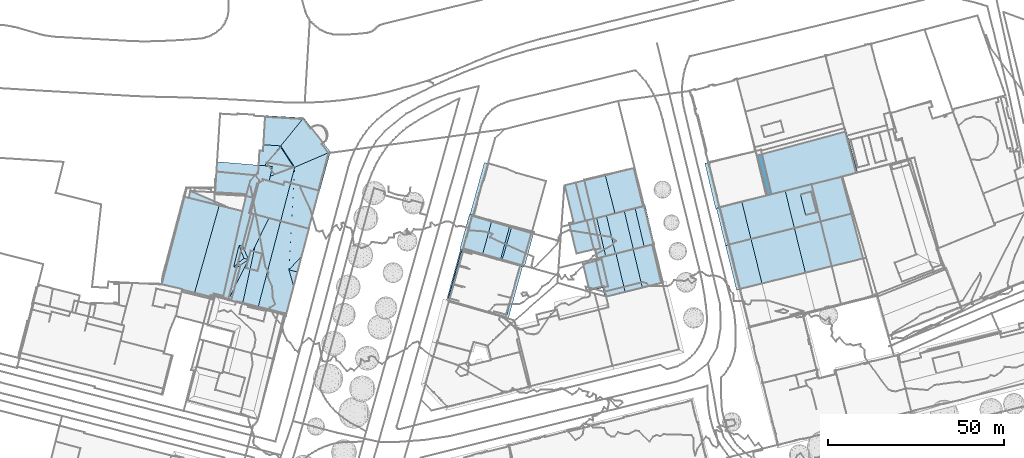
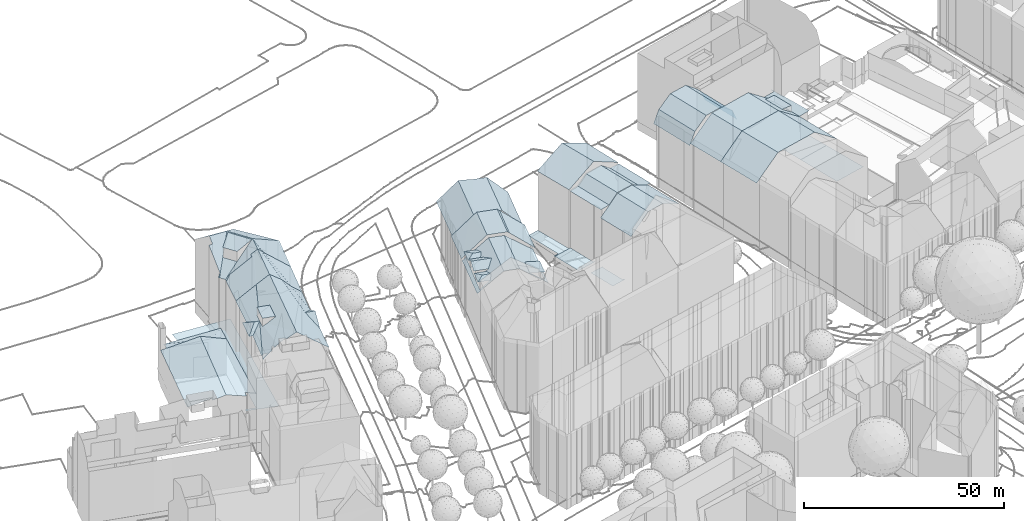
# Not in any storey, part 87 of 477: 23 roofs.
"""IFC4 building model written with IfcOpenShell, lengths in metres."""

from ifc_helpers import new_model, si_unit, frame, origin_with_axes, place, context, subcontext, project, spatial, polygons, element, save


model = new_model("IFC4")

# Units and contexts
model_context = context("Model", 3, precision=1e-05, world=origin_with_axes())
body_context = subcontext(model_context, "Body", "Model", "MODEL_VIEW")
ifc_project = project(units=[si_unit("AREAUNIT", "SQUARE_METRE"), si_unit("LENGTHUNIT", "METRE")], contexts=[model_context])

# Sites, building
site_1_placement = place(None, origin_with_axes())
site_1 = spatial("IfcSite", under=ifc_project, at=site_1_placement, Name="Topoexport Site")
site_2_placement = place(site_1_placement, origin_with_axes())
site_2 = spatial("IfcSite", under=site_1, at=site_2_placement, Name="TPX_BUILDINGS")
building_1_placement = place(site_2_placement, frame((64.667732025, 395.1844160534, 537.6027), z_axis=(0.0, 0.0, 1.0), x_axis=(1.0, 0.0, 0.0)))
building_1 = spatial("IfcBuilding", under=site_2, at=building_1_placement, Name="Building 211", CompositionType="ELEMENT")

# Roof
roof_1_placement = place(None, frame((64.667732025, 395.1844160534, 537.6027), z_axis=(0.0, 0.0, 1.0), x_axis=(1.0, 0.0, 0.0)))
element("IfcRoof", 1, at=roof_1_placement, inside=building_1, Name="Roof 0", context=body_context, shape_type="Tessellation", body=[
    polygons([(4.5400000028, 3.8125, 21.8939), (1.5460000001, 7.3270999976, 23.1738), (6.688000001, 5.9159999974, 23.1738), (1.3420000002, 4.691399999, 21.8939), (0.8580000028, 4.8242000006, 21.8939), (2.7980000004, 9.7821999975, 21.8939), (2.2609999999, 9.9305999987, 21.8939), (5.943, 8.9188999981, 21.8939), (2.8380000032, -0.0956999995, 21.381), (4.0340000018, 1.5419999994, 21.9909), (5.7960000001, -1.683600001, 24.1487), (0.0, 0.0, 19.0482), (4.3110000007, 3.875, 21.6939), (3.9030000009, 3.7802999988, 21.381), (3.6730000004, 3.8436999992, 21.181), (2.7980000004, 9.7821999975, 19.1392), (5.1950000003, 9.3856999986, 21.181), (5.7140000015, 8.9824000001, 21.6939), (9.7730000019, 12.7919999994, 24.1487), (-0.7639999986, 0.2225999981, 18.3763), (0.1810000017, 0.6338, 19.0542), (2.6080000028, -0.0322000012, 21.181), (1.2870000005, 4.498999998, 19.0902), (1.3420000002, 4.691399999, 19.0922), (3.1740000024, 14.557599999, 18.3763), (6.6330000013, 11.003899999, 21.9909), (5.4240000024, 9.3222000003, 21.381), (9.3950000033, 12.8935000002, 23.8177), (6.4830000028, 13.1719000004, 21.382), (4.0940000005, 14.311499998, 19.1812), (2.8680000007, 10.0253999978, 19.1412), (3.9660000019, 13.8641999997, 19.1772), (6.2540000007, 13.2353000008, 21.182), (13.6960000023, 11.6972000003, 24.1487), (9.7090000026, -2.8203000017, 24.1487), (17.5660000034, 0.7548999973, 21.5799), (17.6160000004, 0.7421999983, 21.5729), (16.393000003, -4.0234999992, 21.5729), (13.8360000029, 1.7118999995, 22.0739), (16.1920000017, -3.9717000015, 21.5999), (12.5160000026, -3.0283000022, 22.0869), (1.8880000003, 2.1327999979, 21.9909), (1.1180000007, 3.9091999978, 21.557), (0.8050000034, 4.6307999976, 21.381), (1.2870000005, 4.498999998, 21.381), (0.3230000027, 1.1279000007, 21.546), (-0.2599999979, 0.753899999, 21.381), (0.1810000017, 0.6338, 21.381), (3.7740000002, 13.1923999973, 21.589), (4.5260000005, 11.5819999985, 21.9909), (3.3850000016, 14.0243999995, 21.381), (3.9660000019, 13.8641999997, 21.381), (2.3280000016, 10.1747999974, 21.381), (2.8680000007, 10.0253999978, 21.381), (14.1510000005, 1.6307999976, 21.8319), (14.9600000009, 11.3524999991, 23.1708), (14.7220000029, 1.4853000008, 21.393), (20.200000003, 9.8876999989, 19.1072), (20.8680000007, 9.7001999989, 18.5892), (17.5660000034, 0.7548999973, 19.2002), (16.9110000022, 0.9228000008, 19.7051), (14.5840000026, -4.2382999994, 20.361), (14.6000000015, -3.563500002, 20.483), (12.8310000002, -3.1094000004, 21.8449), (16.1920000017, -3.9717000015, 19.2552), (16.8610000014, -4.8993999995, 18.5891)], [[[3, 2, 1]], [[1, 2, 4]], [[4, 2, 5]], [[7, 2, 6]], [[2, 8, 6]], [[8, 2, 3]], [[11, 10, 9]], [[10, 11, 3]], [[11, 9, 12]], [[3, 1, 10]], [[15, 14, 13]], [[14, 10, 13]], [[18, 17, 16]], [[13, 10, 1]], [[11, 19, 3]], [[12, 21, 20]], [[21, 12, 22]], [[20, 21, 23]], [[23, 24, 20]], [[24, 23, 15]], [[15, 13, 24]], [[12, 9, 22]], [[20, 24, 25]], [[27, 18, 26]], [[26, 18, 8]], [[18, 27, 17]], [[26, 8, 3]], [[29, 26, 28]], [[28, 30, 29]], [[3, 28, 26]], [[3, 19, 28]], [[16, 17, 31]], [[16, 31, 25]], [[33, 30, 32]], [[30, 33, 29]], [[32, 25, 31]], [[25, 32, 30]], [[16, 25, 24]], [[11, 35, 34]], [[34, 19, 11]], [[38, 37, 36]], [[40, 36, 39]], [[40, 38, 36]], [[41, 40, 39]], [[10, 14, 42]], [[42, 14, 43]], [[45, 44, 43]], [[45, 43, 14]], [[43, 44, 46]], [[46, 42, 43]], [[47, 46, 44]], [[47, 48, 46]], [[46, 48, 9]], [[42, 9, 10]], [[9, 42, 46]], [[50, 26, 49]], [[49, 26, 29]], [[52, 51, 49]], [[52, 49, 29]], [[49, 51, 53]], [[53, 50, 49]], [[53, 54, 27]], [[50, 27, 26]], [[27, 50, 53]], [[56, 39, 55]], [[39, 56, 34]], [[56, 55, 57]], [[34, 35, 39]], [[60, 59, 58]], [[58, 56, 61]], [[61, 60, 58]], [[56, 57, 61]], [[41, 35, 62]], [[64, 62, 63]], [[62, 64, 41]], [[63, 62, 65]], [[65, 66, 60]], [[65, 62, 66]], [[60, 66, 59]], [[41, 39, 35]]]),
])

# Building
building_2_placement = place(site_2_placement, frame((102.7887320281, 405.5477160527, 537.9757), z_axis=(0.0, 0.0, 1.0), x_axis=(1.0, 0.0, 0.0)))
building_2 = spatial("IfcBuilding", under=site_2, at=building_2_placement, Name="Building 213", CompositionType="ELEMENT")

# Roofs
roof_2_placement = place(None, frame((102.7887320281, 405.5477160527, 537.9757), z_axis=(0.0, 0.0, 1.0), x_axis=(1.0, 0.0, 0.0)))
element("IfcRoof", 2, at=roof_2_placement, inside=building_2, Name="Roof 0", context=body_context, shape_type="Tessellation", body=[
    polygons([(5.4069999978, -6.3467000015, 4.4825), (5.8159999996, -6.2481000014, 4.4825), (5.9039999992, -6.5967000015, 4.4825), (-0.0450000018, 0.191399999, 4.4825), (1.7969999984, -7.5713, 4.4825), (3.6710000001, 0.9648000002, 4.4825), (3.9609999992, 1.1415999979, 4.4825), (3.9849999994, 1.0478000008, 4.4825)], [[[3, 2, 1]], [[5, 1, 4]], [[1, 5, 3]], [[8, 7, 6]], [[4, 1, 6]], [[4, 6, 7]]]),
])
roof_3_placement = place(None, frame((102.7887320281, 405.5477160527, 537.9757), z_axis=(0.0, 0.0, 1.0), x_axis=(1.0, 0.0, 0.0)))
element("IfcRoof", 3, at=roof_3_placement, inside=building_2, Name="Roof 1", context=body_context, shape_type="Tessellation", body=[
    polygons([(11.8929999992, -7.8984999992, 23.9257), (14.2089999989, 4.2109000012, 23.9257), (16.7939999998, -6.6768000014, 23.9256), (9.3090000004, 2.9882000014, 23.9257), (6.1169999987, -9.3370000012, 19.2121), (5.4069999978, -6.3467000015, 19.2121), (10.0149999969, -8.3663000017, 22.3928), (4.0819999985, 1.682599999, 19.6591), (6.3880000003, 2.2586999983, 21.5419), (3.6710000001, 0.9657999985, 19.2121), (3.5329999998, 1.5487999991, 19.2121), (3.8389999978, 1.6220000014, 19.4611), (22.2419999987, -5.3194000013, 21.2059), (19.6569999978, 5.5711999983, 21.2059)], [[[3, 2, 1]], [[2, 4, 1]], [[7, 6, 5]], [[7, 1, 4]], [[6, 9, 8]], [[6, 7, 9]], [[9, 7, 4]], [[6, 8, 10]], [[12, 11, 10]], [[8, 12, 10]], [[3, 13, 2]], [[14, 2, 13]]]),
])

# Building
building_3_placement = place(site_2_placement, frame((98.9137320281, 416.7703160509, 537.9817), z_axis=(0.0, 0.0, 1.0), x_axis=(1.0, 0.0, 0.0)))
building_3 = spatial("IfcBuilding", under=site_2, at=building_3_placement, Name="Building 215", CompositionType="ELEMENT")

# Roofs
roof_4_placement = place(None, frame((98.9137320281, 416.7703160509, 537.9817), z_axis=(0.0, 0.0, 1.0), x_axis=(1.0, 0.0, 0.0)))
element("IfcRoof", 4, at=roof_4_placement, inside=building_3, Name="Roof 0", context=body_context, shape_type="Tessellation", body=[
    polygons([(1.7390000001, -8.441399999, 4.2915), (6.9159999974, -6.990199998, 4.2915), (7.3609999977, -7.1074000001, 4.2915), (7.3090000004, -6.8954999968, 4.2915), (0.0, 0.0, 4.2916), (4.9659999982, 1.2246000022, 4.2916), (-0.2490000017, -0.0682999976, 4.2916)], [[[3, 2, 1]], [[2, 3, 4]], [[1, 2, 5]], [[6, 5, 2]], [[7, 1, 5]]]),
])
roof_5_placement = place(None, frame((98.9137320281, 416.7703160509, 537.9817), z_axis=(0.0, 0.0, 1.0), x_axis=(1.0, 0.0, 0.0)))
element("IfcRoof", 5, at=roof_5_placement, inside=building_3, Name="Roof 1", context=body_context, shape_type="Tessellation", body=[
    polygons([(13.0639999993, -8.3505999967, 24.1426), (10.3779999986, 2.9638999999, 24.1427), (18.1549999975, -7.1415999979, 24.1426), (15.4699999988, 4.1729000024, 24.1427), (15.5339999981, 3.9024000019, 24.1427), (10.2699999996, -9.0136999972, 21.7419), (7.5849999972, 2.3008000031, 21.7419), (18.5539999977, 4.9043000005, 21.7419), (18.6039999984, 4.692400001, 21.7419), (21.2399999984, -6.4091999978, 21.7419), (20.9829999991, -6.4706999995, 21.7419), (10.5029999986, -8.9589999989, 21.7419), (10.4899999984, -8.9042999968, 21.7419), (20.9419999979, -6.297799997, 21.7419), (7.549999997, -9.6591999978, 21.6039), (6.9159999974, -6.990199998, 21.6039), (4.9659999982, 1.2246000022, 21.6039), (4.8640000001, 1.6543000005, 21.6039), (21.1049999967, 5.5108000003, 21.6209), (24.1529999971, -5.7186999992, 21.6039), (21.1659999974, 5.5244000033, 21.6179), (21.4670000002, 5.5957000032, 21.6039), (7.818, 2.3555000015, 21.7419), (10.0669999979, 2.4883000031, 21.7419), (7.9129999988, 1.9541000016, 21.7419), (14.2060000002, 3.5654000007, 21.7419), (18.2969999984, 4.8438000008, 21.7419), (18.3479999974, 4.626000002, 21.7419), (21.1049999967, 5.5108000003, 21.4209), (21.1659999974, 5.5244000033, 21.4179), (20.7390000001, 5.4238000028, 21.4569)], [[[3, 2, 1]], [[5, 4, 2]], [[5, 2, 3]], [[1, 7, 6]], [[2, 7, 1]], [[4, 5, 8]], [[9, 8, 5]], [[5, 10, 9]], [[3, 10, 5]], [[13, 12, 11]], [[11, 14, 13]], [[16, 15, 6]], [[6, 7, 16]], [[18, 17, 7]], [[7, 17, 16]], [[19, 9, 10]], [[10, 20, 19]], [[19, 20, 21]], [[8, 9, 19]], [[21, 20, 22]], [[25, 24, 23]], [[23, 24, 26]], [[26, 28, 27]], [[26, 27, 23]], [[31, 30, 29]]]),
])

# Building
building_4_placement = place(site_2_placement, frame((97.5747320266, 427.9617160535, 537.9817), z_axis=(0.0, 0.0, 1.0), x_axis=(1.0, 0.0, 0.0)))
building_4 = spatial("IfcBuilding", under=site_2, at=building_4_placement, Name="Building 216", CompositionType="ELEMENT")

# Roofs
roof_6_placement = place(None, frame((97.5747320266, 427.9617160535, 537.9817), z_axis=(0.0, 0.0, 1.0), x_axis=(1.0, 0.0, 0.0)))
element("IfcRoof", 6, at=roof_6_placement, inside=building_4, Name="Roof 0", context=body_context, shape_type="Tessellation", body=[
    polygons([(14.2390000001, -7.9658000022, 26.7444), (11.4050000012, -8.6982000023, 25.2266), (11.4310000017, 3.0196000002, 26.7444), (5.5520000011, 1.5956999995, 23.5977), (4.5610000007, 1.3564999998, 23.0668), (19.5830000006, -6.5918000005, 23.8397), (3.1070000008, 0.7763999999, 22.2619), (10.313000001, -8.9736000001, 24.6426), (5.8550000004, -10.076100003, 22.2618), (5.8660000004, -10.1181000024, 22.2618), (3.0529999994, 0.9902999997, 22.2619), (19.6849999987, 4.9169999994, 22.5608), (19.6860000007, 5.0449000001, 22.5468), (19.7170000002, 4.9247999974, 22.5438), (19.7930000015, 4.6279999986, 22.5358), (22.4250000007, -5.6084000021, 22.2678), (22.4860000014, -5.8447000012, 22.2618), (5.1620000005, -7.3408000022, 22.1119), (5.8660000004, -10.1181000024, 22.0619), (5.8550000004, -10.076100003, 22.0619)], [[[3, 2, 1]], [[4, 2, 3]], [[2, 4, 5]], [[6, 3, 1]], [[9, 8, 7]], [[9, 10, 8]], [[8, 2, 5]], [[11, 7, 5]], [[5, 7, 8]], [[13, 3, 12]], [[6, 12, 3]], [[13, 12, 14]], [[14, 12, 15]], [[15, 6, 16]], [[6, 15, 12]], [[17, 16, 6]], [[20, 19, 18]]]),
])
roof_7_placement = place(None, frame((97.5747320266, 427.9617160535, 537.9817), z_axis=(0.0, 0.0, 1.0), x_axis=(1.0, 0.0, 0.0)))
element("IfcRoof", 7, at=roof_7_placement, inside=building_4, Name="Roof 1", context=body_context, shape_type="Tessellation", body=[
    polygons([(1.0899999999, -11.2597000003, 4.2916), (2.3269999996, -10.6279000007, 4.2916), (5.8550000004, -10.0771000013, 4.2916), (1.0139999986, -10.9394000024, 4.2916), (-0.1319999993, -0.2724000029, 4.2916), (-0.1149999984, -0.0293000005, 4.2916), (3.1070000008, 0.7763999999, 4.2916)], [[[3, 2, 1]], [[1, 2, 4]], [[7, 6, 5]], [[7, 5, 2]], [[7, 2, 3]]]),
])

# Building
building_5_placement = place(site_2_placement, frame((71.5077320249, 419.4158160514, 538.2757), z_axis=(0.0, 0.0, 1.0), x_axis=(1.0, 0.0, 0.0)))
building_5 = spatial("IfcBuilding", under=site_2, at=building_5_placement, Name="Building 218", CompositionType="ELEMENT")

# Roof
roof_8_placement = place(None, frame((71.5077320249, 419.4158160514, 538.2757), z_axis=(0.0, 0.0, 1.0), x_axis=(1.0, 0.0, 0.0)))
element("IfcRoof", 8, at=roof_8_placement, inside=building_5, Name="Roof 0", context=body_context, shape_type="Tessellation", body=[
    polygons([(5.2630000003, -1.4716999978, 23.8407), (12.2180000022, 12.0987000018, 23.8407), (15.4800000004, 11.1905000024, 23.8407), (11.5430000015, -3.1571999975, 23.8407), (10.3780000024, -2.8768999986, 23.8407), (10.9740000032, -3.0537, 23.8627), (14.3450000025, -3.9266999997, 20.903), (20.7310000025, 9.7285000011, 18.3702), (16.7580000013, -4.5887999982, 18.3702), (-0.935999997, 0.2675999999, 18.4312), (3.1540000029, 15.1231000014, 18.4102), (3.2370000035, 10.6689999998, 19.6191), (3.4560000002, -0.990199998, 22.7848), (0.0, 0.0, 19.3591), (8.5650000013, 13.5342000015, 23.8377), (4.2300000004, 14.7851999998, 19.4951), (4.2420000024, 14.8280999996, 19.4951), (4.4660000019, -1.253899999, 23.7797), (8.5710000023, 13.5322999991, 23.8377), (9.0720000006, 13.3877000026, 23.8377), (9.4630000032, 13.2743999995, 23.8387)], [[[3, 2, 1]], [[3, 5, 4]], [[5, 3, 1]], [[6, 4, 5]], [[7, 3, 4]], [[3, 7, 8]], [[9, 8, 7]], [[12, 11, 10]], [[14, 13, 12]], [[10, 14, 12]], [[15, 12, 13]], [[12, 15, 16]], [[11, 16, 17]], [[16, 11, 12]], [[13, 18, 15]], [[18, 1, 15]], [[15, 1, 19]], [[1, 20, 19]], [[1, 21, 20]], [[21, 1, 2]]]),
])

# Building
building_6_placement = place(site_2_placement, frame((68.6347320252, 410.0320160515, 538.0377), z_axis=(0.0, 0.0, 1.0), x_axis=(1.0, 0.0, 0.0)))
building_6 = spatial("IfcBuilding", under=site_2, at=building_6_placement, Name="Building 219", CompositionType="ELEMENT")

# Roofs
roof_9_placement = place(None, frame((68.6347320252, 410.0320160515, 538.0377), z_axis=(0.0, 0.0, 1.0), x_axis=(1.0, 0.0, 0.0)))
element("IfcRoof", 9, at=roof_9_placement, inside=building_6, Name="Roof 0", context=body_context, shape_type="Tessellation", body=[
    polygons([(14.4160000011, 6.2266000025, 23.6277), (10.9930000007, -3.495099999, 24.2517), (13.8470000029, 6.3300999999, 24.1007), (16.2340000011, -4.9580000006, 19.5911), (17.2180000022, 5.4571000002, 21.141), (20.0100000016, 4.1856000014, 18.5462), (17.4090000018, -5.2861000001, 18.5462), (20.1390000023, 4.6543000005, 18.5462)], [[[3, 2, 1]], [[5, 2, 4]], [[4, 7, 6]], [[6, 8, 5]], [[1, 2, 5]], [[5, 4, 6]]]),
])
roof_10_placement = place(None, frame((68.6347320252, 410.0320160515, 538.0377), z_axis=(0.0, 0.0, 1.0), x_axis=(1.0, 0.0, 0.0)))
element("IfcRoof", 10, at=roof_10_placement, inside=building_6, Name="Roof 1", context=body_context, shape_type="Tessellation", body=[
    polygons([(0.2920000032, 1.0322999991, 19.3851), (5.4290000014, -1.9501999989, 24.6556), (0.1270000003, -0.5350999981, 19.6071), (-0.7929999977, -0.2899999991, 18.7312), (6.3289999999, 8.3936000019, 23.0228), (1.9370000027, 9.6513999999, 18.6692), (2.8729999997, 9.3838, 19.5971), (-0.9859999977, -0.2362999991, 18.5462), (1.7430000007, 9.7050999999, 18.5462), (8.1359999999, 7.9121000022, 24.6556), (7.3390000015, 8.129900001, 24.0177), (13.251000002, 6.5069000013, 24.6556), (10.5390000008, -3.375, 24.6556), (13.8470000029, 6.3300999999, 24.1007), (10.9930000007, -3.495099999, 24.2517)], [[[3, 2, 1]], [[1, 4, 3]], [[5, 1, 2]], [[7, 6, 1]], [[7, 1, 5]], [[1, 6, 4]], [[6, 8, 4]], [[8, 6, 9]], [[11, 2, 10]], [[5, 2, 11]], [[2, 13, 12]], [[12, 10, 2]], [[12, 15, 14]], [[15, 12, 13]]]),
])

# Building
building_7_placement = place(site_2_placement, frame((138.3257320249, 434.5047160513, 538.8886), z_axis=(0.0, 0.0, 1.0), x_axis=(1.0, 0.0, 0.0)))
building_7 = spatial("IfcBuilding", under=site_2, at=building_7_placement, Name="Building 221", CompositionType="ELEMENT")

# Roof
roof_11_placement = place(None, frame((138.3257320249, 434.5047160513, 538.8886), z_axis=(0.0, 0.0, 1.0), x_axis=(1.0, 0.0, 0.0)))
element("IfcRoof", 11, at=roof_11_placement, inside=building_7, Name="Roof 0", context=body_context, shape_type="Tessellation", body=[
    polygons([(16.518000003, -9.4560999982, 23.2407), (9.8220000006, 2.3213, 26.2215), (13.5280000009, 3.1963, 23.2408), (12.825000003, -10.3867000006, 26.2214), (4.6380000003, 1.0956999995, 26.2215), (7.6590000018, -11.6904000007, 26.2215), (0.807, 0.1914000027, 23.2408), (3.8420000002, -12.6532999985, 23.2407), (2.0760000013, -13.0976999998, 19.8061), (-0.9649999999, -0.2275999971, 19.8061), (0.0, 0.0, 21.6769), (3.2370000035, -12.8046999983, 22.0639)], [[[3, 2, 1]], [[4, 1, 2]], [[2, 5, 4]], [[6, 4, 5]], [[5, 7, 6]], [[8, 6, 7]], [[11, 10, 9]], [[7, 11, 12]], [[12, 8, 7]], [[9, 12, 11]]]),
])

# Building
building_8_placement = place(site_2_placement, frame((146.5207320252, 458.1258160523, 539.1716), z_axis=(0.0, 0.0, 1.0), x_axis=(1.0, 0.0, 0.0)))
building_8 = spatial("IfcBuilding", under=site_2, at=building_8_placement, Name="Building 222", CompositionType="ELEMENT")

# Roofs
roof_12_placement = place(None, frame((146.5207320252, 458.1258160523, 539.1716), z_axis=(0.0, 0.0, 1.0), x_axis=(1.0, 0.0, 0.0)))
element("IfcRoof", 12, at=roof_12_placement, inside=building_8, Name="Roof 0", context=body_context, shape_type="Tessellation", body=[
    polygons([(30.8230000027, -14.8828000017, 9.859), (30.5660000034, -13.9092000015, 9.859), (30.8340000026, -13.8359999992, 9.859), (33.9230000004, -26.629900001, 9.859), (34.2760000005, -26.5331999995, 9.859), (30.0260000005, -27.6796999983, 9.859), (8.6229999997, -33.4862999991, 9.859), (9.8440000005, -32.6875, 9.859), (7.1530000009, -21.2987999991, 9.859), (8.5, -33.0322000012, 9.859)], [[[3, 2, 1]], [[5, 1, 4]], [[1, 5, 3]], [[6, 4, 1]], [[6, 8, 7]], [[8, 6, 9]], [[7, 8, 10]], [[9, 6, 1]]]),
])
roof_13_placement = place(None, frame((146.5207320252, 458.1258160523, 539.1716), z_axis=(0.0, 0.0, 1.0), x_axis=(1.0, 0.0, 0.0)))
element("IfcRoof", 13, at=roof_13_placement, inside=building_8, Name="Roof 1", context=body_context, shape_type="Tessellation", body=[
    polygons([(5.3330000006, -20.4248000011, 22.9578), (5.3910000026, -20.4111000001, 22.8278), (5.7270000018, -21.6865000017, 22.7538), (9.8440000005, -32.6875, 19.5231), (8.3230000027, -33.0771999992, 22.9577), (7.1530000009, -21.2987999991, 19.5231)], [[[3, 2, 1]], [[3, 5, 4]], [[5, 3, 1]], [[3, 4, 6]]]),
])

# Building
building_9_placement = place(site_2_placement, frame((141.5627320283, 421.7029160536, 538.0287), z_axis=(0.0, 0.0, 1.0), x_axis=(1.0, 0.0, 0.0)))
building_9 = spatial("IfcBuilding", under=site_2, at=building_9_placement, Name="Building 227", CompositionType="ELEMENT")

# Roofs
roof_14_placement = place(None, frame((141.5627320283, 421.7029160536, 538.0287), z_axis=(0.0, 0.0, 1.0), x_axis=(1.0, 0.0, 0.0)))
element("IfcRoof", 14, at=roof_14_placement, inside=building_9, Name="Roof 0", context=body_context, shape_type="Tessellation", body=[
    polygons([(28.7839999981, -3.996100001, 8.0921), (26.1789999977, 6.5683999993, 8.0922), (34.7390000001, 8.6845999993, 8.0921), (37.5109999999, -1.7968000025, 8.0921), (26.1739999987, 6.5878999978, 7.8922)], [[[3, 2, 1]], [[1, 4, 3]], [[5, 2, 3]]]),
])
roof_15_placement = place(None, frame((141.5627320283, 421.7029160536, 538.0287), z_axis=(0.0, 0.0, 1.0), x_axis=(1.0, 0.0, 0.0)))
element("IfcRoof", 15, at=roof_15_placement, inside=building_9, Name="Roof 1", context=body_context, shape_type="Tessellation", body=[
    polygons([(1.2789999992, -4.629900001, 21.9868), (1.6719999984, -10.8280999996, 21.1449), (-0.9510000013, -0.2391999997, 21.1519), (2.5309999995, -10.6113000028, 21.8138), (0.2889999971, 0.0733000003, 22.1188), (6.3049999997, 1.5868999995, 26.9194), (18.6409999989, 4.6992999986, 26.9194), (21.2529999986, -5.8993999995, 26.9193), (8.9239999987, -9.0019000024, 26.9194), (24.4709999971, -2.1845000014, 23.9256), (23.0029999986, 3.691399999, 23.9396), (27.5909999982, -1.3779000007, 23.5407), (26.0779999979, 4.486399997, 23.6367), (4.6199999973, 1.1620999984, 25.5745), (2.743999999, -10.5576000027, 21.9848), (5.5149999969, -9.8603000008, 24.1956), (7.7599999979, -9.2949000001, 25.9914), (21.1679999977, 5.3281999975, 24.9765), (23.3019999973, 3.7685999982, 23.7107), (26.1739999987, 6.5878999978, 21.1279), (26.1769999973, 6.5751999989, 21.1279), (26.0779999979, 4.486399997, 21.5729), (27.5909999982, -1.3779000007, 21.5249), (22.9979999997, -5.4590000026, 25.5775), (24.7819999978, -2.1044999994, 23.6877), (27.9759999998, -4.2060000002, 21.7498), (28.7859999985, -4.0019000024, 21.1279)], [[[3, 2, 1]], [[4, 1, 2]], [[3, 1, 5]], [[8, 7, 6]], [[6, 9, 8]], [[12, 11, 10]], [[11, 12, 13]], [[5, 1, 14]], [[6, 14, 1]], [[1, 4, 15]], [[1, 15, 16]], [[17, 9, 1]], [[17, 1, 16]], [[1, 9, 6]], [[18, 7, 11]], [[11, 7, 10]], [[18, 11, 19]], [[21, 20, 19]], [[19, 22, 21]], [[20, 18, 19]], [[21, 22, 23]], [[10, 8, 24]], [[8, 10, 7]], [[10, 24, 25]], [[23, 25, 26]], [[26, 27, 23]], [[25, 24, 26]], [[23, 27, 21]]]),
])

# Building
building_10_placement = place(site_2_placement, frame((144.3067320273, 411.1453160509, 538.0286), z_axis=(0.0, 0.0, 1.0), x_axis=(1.0, 0.0, 0.0)))
building_10 = spatial("IfcBuilding", under=site_2, at=building_10_placement, Name="Building 230", CompositionType="ELEMENT")

# Roofs
roof_16_placement = place(None, frame((144.3067320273, 411.1453160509, 538.0286), z_axis=(0.0, 0.0, 1.0), x_axis=(1.0, 0.0, 0.0)))
element("IfcRoof", 16, at=roof_16_placement, inside=building_10, Name="Roof 0", context=body_context, shape_type="Tessellation", body=[
    polygons([(-0.2129999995, -0.0537, 21.8139), (2.4539999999, -12.7968999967, 21.446), (2.0539999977, -12.8954999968, 21.136), (-1.0720000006, -0.2704999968, 21.145), (3.1160000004, -12.6327999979, 21.9749), (2.7709999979, 0.697300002, 24.1957), (3.8379999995, -12.4530999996, 22.5509), (0.0, 0.0, 21.9849), (5.0159999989, 1.2627000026, 25.9915), (8.7689999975, -11.2324000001, 26.4905), (9.3079999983, -11.0986000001, 26.9194), (6.1799999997, 1.5557000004, 26.9195), (22.4479999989, -7.8436999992, 26.2985), (21.6400000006, -8.0438999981, 26.9194), (18.5089999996, 4.6582000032, 26.9194), (29.1799999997, -6.1757999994, 21.128), (20.2540000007, 5.0976999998, 25.5776), (25.2320000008, 6.3516000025, 21.7499), (26.0399999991, 6.5615000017, 21.128)], [[[3, 2, 1]], [[1, 4, 3]], [[6, 2, 5]], [[6, 5, 7]], [[2, 8, 1]], [[8, 2, 6]], [[9, 6, 7]], [[7, 10, 9]], [[12, 9, 11]], [[10, 11, 9]], [[15, 14, 13]], [[17, 13, 16]], [[19, 18, 16]], [[17, 15, 13]], [[18, 17, 16]], [[11, 14, 12]], [[15, 12, 14]]]),
])
roof_17_placement = place(None, frame((144.3067320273, 411.1453160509, 538.0286), z_axis=(0.0, 0.0, 1.0), x_axis=(1.0, 0.0, 0.0)))
element("IfcRoof", 17, at=roof_17_placement, inside=building_10, Name="Roof 1", context=body_context, shape_type="Tessellation", body=[
    polygons([(26.0399999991, 6.5615000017, 8.0922), (38.129999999, -3.9598999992, 8.0922), (29.1799999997, -6.1757999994, 8.0922), (34.7670000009, 8.7608000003, 8.0922)], [[[3, 2, 1]], [[4, 1, 2]]]),
])

# Building
building_11_placement = place(site_2_placement, frame((-8.9362679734, 426.3592160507, 536.4029), z_axis=(0.0, 0.0, 1.0), x_axis=(1.0, 0.0, 0.0)))
building_11 = spatial("IfcBuilding", under=site_2, at=building_11_placement, Name="Building 232", CompositionType="ELEMENT")

# Roofs
roof_18_placement = place(None, frame((-8.9362679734, 426.3592160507, 536.4029), z_axis=(0.0, 0.0, 1.0), x_axis=(1.0, 0.0, 0.0)))
element("IfcRoof", 18, at=roof_18_placement, inside=building_11, Name="Roof 0", context=body_context, shape_type="Tessellation", body=[
    polygons([(9.4329999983, -29.8525999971, 6.1824), (14.8410000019, -32.0800999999, 6.1824), (10.756000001, -30.9794999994, 6.1824), (23.313000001, 7.0391000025, 6.1824), (14.8480000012, -5.75, 6.1824), (6.6689999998, -29.1386999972, 6.1824), (6.4860000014, -29.8271999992, 6.1824), (16.0089999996, -0.8905999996, 6.1824), (7.0980000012, -0.3954999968, 6.1824), (7.2740000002, 8.4111000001, 6.1824), (6.993999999, -0.3896999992, 6.1824)], [[[3, 2, 1]], [[5, 2, 4]], [[1, 2, 5]], [[7, 1, 6]], [[1, 7, 3]], [[10, 9, 8]], [[4, 8, 5]], [[10, 8, 4]], [[11, 9, 10]]]),
])
roof_19_placement = place(None, frame((-8.9362679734, 426.3592160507, 536.4029), z_axis=(0.0, 0.0, 1.0), x_axis=(1.0, 0.0, 0.0)))
element("IfcRoof", 19, at=roof_19_placement, inside=building_11, Name="Roof 1", context=body_context, shape_type="Tessellation", body=[
    polygons([(11.1169999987, -4.8271999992, 11.5769), (0.0, 0.0, 10.828), (7.0980000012, -0.3954999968, 10.755), (16.0089999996, -0.8905999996, 10.664), (12.9820000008, -5.2890999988, 11.1699), (14.8480000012, -5.75, 10.762), (8.2069999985, -4.1074000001, 11.3869), (0.7740000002, -2.2685999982, 10.943), (-0.3999999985, -1.9775999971, 10.873), (-2.2430000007, -27.9169999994, 11.9038), (-6.6229999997, -19.5800999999, 10.602), (1.0269999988, -29.5243999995, 12.8528), (-5.1600000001, -14.0937999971, 10.602), (-2.4219999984, -28.6933999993, 11.9038), (8.2069999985, -4.1074000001, 12.8528), (-1.6019999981, -1.6816999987, 10.646), (-1.8319999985, -1.623999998, 10.602), (6.6689999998, -29.1386999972, 11.4719), (6.2320000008, -30.7802999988, 11.4719), (11.1169999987, -4.8271999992, 11.9769), (9.4329999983, -29.8525999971, 10.602), (-8.4670000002, -26.4882999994, 10.602), (-7.9070000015, -24.3896999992, 10.602), (-8.0920000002, -26.5800999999, 10.681)], [[[3, 2, 1]], [[1, 4, 3]], [[6, 4, 5]], [[1, 5, 4]], [[1, 2, 7]], [[8, 7, 2]], [[2, 9, 8]], [[12, 11, 10]], [[12, 13, 11]], [[12, 10, 14]], [[12, 15, 13]], [[13, 15, 9]], [[17, 13, 16]], [[9, 16, 13]], [[15, 19, 18]], [[15, 18, 20]], [[19, 15, 12]], [[18, 6, 20]], [[6, 18, 21]], [[24, 23, 22]], [[23, 24, 10]], [[23, 10, 11]]]),
])

# Building
building_12_placement = place(site_2_placement, frame((9.491732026, 430.8250160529, 536.5319), z_axis=(0.0, 0.0, 1.0), x_axis=(1.0, 0.0, 0.0)))
building_12 = spatial("IfcBuilding", under=site_2, at=building_12_placement, Name="Building 234", CompositionType="ELEMENT")

# Roof
roof_20_placement = place(None, frame((9.491732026, 430.8250160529, 536.5319), z_axis=(0.0, 0.0, 1.0), x_axis=(1.0, 0.0, 0.0)))
element("IfcRoof", 20, at=roof_20_placement, inside=building_12, Name="Roof 0", context=body_context, shape_type="Tessellation", body=[
    polygons([(10.063000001, -2.2041000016, 28.4413), (9.1119999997, -1.9463, 27.7253), (11.2490000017, 2.3271999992, 28.4983), (10.9800000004, -2.4521000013, 27.7853), (18.0150000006, -4.3574000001, 21.7979), (21.3960000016, 6.683600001, 21.6839), (18.3460000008, -4.447300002, 21.5239), (20.7880000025, 6.4228999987, 22.0919), (11.6510000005, -2.634800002, 27.0744), (16.0320000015, 13.5487999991, 21.8839), (13.7170000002, 15.9648000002, 22.1739), (13.7970000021, 16.4091999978, 21.9679), (19.4360000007, 9.192400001, 21.7569), (13.449000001, 15.9804999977, 22.3169), (7.2800000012, 8.3993999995, 28.4983), (2.8630000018, 16.5850000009, 22.6099), (2.818, 15.8544999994, 23.1668), (2.8890000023, 17.0253999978, 22.2749), (8.938000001, -1.8993999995, 27.6143), (10.995000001, 2.2890999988, 28.3483), (10.6400000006, 2.1563000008, 28.1103), (8.3440000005, -1.7382999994, 27.1434), (4.6290000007, -1.8066000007, 24.4017), (5.561999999, 0.2705000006, 24.7016), (8.0639999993, -2.7382999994, 27.1244), (2.1640000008, -1.1387000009, 22.4289), (2.324000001, -1.4580000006, 22.6098), (1.0069999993, -2.1631000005, 21.7589), (1.1950000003, -1.4287, 21.7589), (0.8940000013, 0.5020000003, 22.2769), (0.2740000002, -0.0263999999, 21.7589), (0.8139999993, 0.6112999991, 22.2729), (0.9070000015, 0.7216999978, 22.3619), (3.3640000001, 3.623999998, 24.7016), (1.057, 3.2256000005, 24.2417), (0.6740000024, 0.8017999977, 22.4049), (0.0, 0.0, 21.7589), (2.2829999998, 6.932599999, 27.1404), (1.137000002, 4.566399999, 25.2996), (1.2829999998, 6.9932000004, 27.1344), (2.3909999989, 8.7285000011, 28.4983), (7.0540000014, 7.686499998, 28.1253), (7.3110000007, 7.9697000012, 28.3643), (5.561999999, 0.2705000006, 27.7613), (3.3640000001, 3.623999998, 27.7613), (2.5260000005, 10.9765999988, 26.8234)], [[[3, 2, 1]], [[4, 3, 1]], [[7, 6, 5]], [[9, 6, 8]], [[6, 9, 5]], [[9, 8, 3]], [[12, 11, 10]], [[10, 11, 3]], [[13, 3, 8]], [[3, 13, 10]], [[8, 6, 13]], [[15, 3, 14]], [[14, 11, 12]], [[11, 14, 3]], [[17, 14, 16]], [[14, 17, 15]], [[18, 14, 12]], [[14, 18, 16]], [[19, 2, 3]], [[3, 20, 19]], [[20, 21, 19]], [[19, 21, 22]], [[24, 23, 22]], [[25, 22, 23]], [[24, 22, 21]], [[26, 23, 24]], [[29, 28, 27]], [[29, 26, 24]], [[29, 27, 26]], [[32, 31, 30]], [[30, 31, 29]], [[30, 24, 33]], [[24, 30, 29]], [[34, 33, 24]], [[33, 34, 35]], [[32, 36, 31]], [[37, 31, 36]], [[40, 39, 38]], [[38, 39, 34]], [[38, 15, 41]], [[15, 38, 34]], [[34, 39, 35]], [[34, 42, 15]], [[15, 42, 43]], [[43, 20, 3]], [[43, 3, 15]], [[45, 44, 20]], [[20, 43, 45]], [[41, 15, 46]], [[17, 46, 15]], [[9, 3, 4]]]),
])

# Building
building_13_placement = place(site_2_placement, frame((8.2807320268, 420.0125160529, 536.5319), z_axis=(0.0, 0.0, 1.0), x_axis=(1.0, 0.0, 0.0)))
building_13 = spatial("IfcBuilding", under=site_2, at=building_13_placement, Name="Building 236", CompositionType="ELEMENT")

# Roof
roof_21_placement = place(None, frame((8.2807320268, 420.0125160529, 536.5319), z_axis=(0.0, 0.0, 1.0), x_axis=(1.0, 0.0, 0.0)))
element("IfcRoof", 21, at=roof_21_placement, inside=building_13, Name="Roof 0", context=body_context, shape_type="Tessellation", body=[
    polygons([(5.1970000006, -1.3828000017, 25.8725), (10.3229999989, 8.8662, 27.7253), (11.2740000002, 8.6083999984, 28.4413), (8.4349999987, -2.2441000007, 28.3043), (5.1039999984, -1.3574000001, 25.8135), (10.1490000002, 8.9131000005, 27.6143), (5.8399999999, 9.0058999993, 24.4017), (1.6030000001, -0.4268000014, 23.0408), (9.2749999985, 8.0742000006, 27.1244), (9.5549999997, 9.0742000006, 27.1434), (3.5350000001, 9.3544999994, 22.6098), (0.0, 0.0, 21.7589), (2.2179999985, 8.6493999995, 21.7589), (3.375, 9.6737999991, 22.4289), (16.4569999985, -4.3779000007, 21.4889), (12.8619999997, 8.177699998, 27.0744), (19.3759999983, 6.4140999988, 21.6739), (16.6019999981, -4.4169999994, 21.3689), (19.557, 6.365199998, 21.5239), (13.8229999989, -3.6768000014, 23.6697), (11.5489999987, -3.072300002, 26.0785), (12.1909999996, 8.3603999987, 27.7853)], [[[3, 2, 1]], [[1, 4, 3]], [[5, 1, 2]], [[2, 6, 5]], [[8, 5, 7]], [[7, 5, 9]], [[9, 6, 10]], [[6, 9, 5]], [[13, 12, 11]], [[7, 12, 8]], [[11, 7, 14]], [[7, 11, 12]], [[17, 16, 15]], [[19, 17, 18]], [[15, 18, 17]], [[20, 15, 16]], [[4, 21, 3]], [[22, 3, 21]], [[21, 20, 16]], [[16, 22, 21]]]),
])

# Building
building_14_placement = place(site_2_placement, frame((1.8157320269, 395.3797160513, 536.5319), z_axis=(0.0, 0.0, 1.0), x_axis=(1.0, 0.0, 0.0)))
building_14 = spatial("IfcBuilding", under=site_2, at=building_14_placement, Name="Building 237", CompositionType="ELEMENT")

# Roofs
roof_22_placement = place(None, frame((1.8157320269, 395.3797160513, 536.5319), z_axis=(0.0, 0.0, 1.0), x_axis=(1.0, 0.0, 0.0)))
element("IfcRoof", 22, at=roof_22_placement, inside=building_14, Name="Roof 0", context=body_context, shape_type="Tessellation", body=[
    polygons([(4.4750000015, 11.8857000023, 23.7567), (3.7100000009, 13.9590000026, 22.6338), (5.8079999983, 11.5449000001, 23.7567), (4.5289999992, 14.3398000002, 22.2798), (3.1149999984, 15.572300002, 21.7589), (4.0779999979, 15.3252000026, 21.7589), (1.563000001, 9.5166000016, 21.7589), (0.0109999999, 0.0224000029, 21.4099), (0.0940000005, 0.2891000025, 21.4269), (0.0789999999, 0.2910000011, 21.4159), (2.5260000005, 9.2715000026, 21.7589), (6.4450000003, 13.9766000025, 23.7697), (8.068, 24.2050999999, 23.0408), (11.5689999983, 23.2754000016, 25.8135), (6.4649999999, 24.6328000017, 21.7589), (7.3909999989, 24.3857000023, 22.4998), (6.9400000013, 13.8496000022, 24.1607)], [[[3, 2, 1]], [[2, 3, 4]], [[4, 6, 5]], [[4, 5, 2]], [[2, 5, 7]], [[7, 1, 2]], [[9, 8, 3]], [[3, 11, 10]], [[10, 9, 3]], [[1, 7, 11]], [[3, 1, 11]], [[3, 12, 4]], [[13, 6, 4]], [[4, 12, 13]], [[14, 13, 12]], [[16, 15, 6]], [[6, 13, 16]], [[17, 14, 12]]]),
])
roof_23_placement = place(None, frame((1.8157320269, 395.3797160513, 536.5319), z_axis=(0.0, 0.0, 1.0), x_axis=(1.0, 0.0, 0.0)))
element("IfcRoof", 23, at=roof_23_placement, inside=building_14, Name="Roof 1", context=body_context, shape_type="Tessellation", body=[
    polygons([(5.8079999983, 11.5449000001, 26.3225), (8.4100000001, 8.2060000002, 26.3224), (5.1770000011, 9.0351000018, 26.3225), (6.4450000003, 13.9766000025, 26.3225), (9.675999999, 13.1504000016, 26.3225), (11.6620000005, 23.25, 25.8725), (6.9589999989, 13.8456999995, 24.1727), (6.9400000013, 13.8496000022, 24.1607), (11.5689999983, 23.2754000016, 25.8135), (17.2859999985, 8.6006000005, 24.1437), (8.563000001, -2.3066000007, 27.9083), (18.0139999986, 21.5604999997, 26.0785), (14.8999999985, 22.3887000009, 28.3043), (8.3759999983, -2.5409999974, 27.9893), (8.4459999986, -2.2753999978, 27.9923), (5.6889999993, -1.8290999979, 26.3604), (5.7569999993, -1.5507999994, 26.3424), (5.370000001, 8.9863000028, 24.0247), (4.0159999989, -1.0819999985, 25.2855), (3.925999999, -1.3612999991, 25.2915), (3.6119999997, -1.2782999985, 25.1016), (6.3189999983, 8.7422000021, 24.5986), (0.0109999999, 0.0224000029, 21.4099), (5.8079999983, 11.5449000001, 23.7567), (1.9299999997, 3.7099000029, 22.2088), (0.2100000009, 0.2344000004, 21.5229), (0.0, 0.0, 21.4049), (-0.1279999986, -0.4492000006, 21.3879), (18.6409999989, 3.8203000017, 21.8379), (19.7910000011, 7.9600000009, 24.1436), (18.686999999, 3.6562000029, 21.7589), (16.574000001, -3.9463, 21.9058), (16.5269999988, -4.7694999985, 21.7588), (20.9659999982, 12.5576000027, 21.2589), (20.2879999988, 20.9560000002, 23.6697), (23.006000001, 20.2324000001, 21.4189), (23.0669999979, 20.2158000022, 21.3689), (8.3519999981, 8.2206999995, 26.1225), (8.4100000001, 8.2060000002, 26.1655), (9.675999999, 13.1504000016, 26.2085), (9.5610000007, 13.1787, 26.1225), (5.1770000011, 9.0351000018, 23.8317), (2.9549999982, -0.561499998, 24.2976), (2.8020000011, -1.0986000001, 24.2976), (2.1490000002, -0.9540999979, 23.6487), (2.2870000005, -0.3955000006, 23.6297), (14.5890000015, -4.240199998, 23.2397), (10.7879999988, -3.2011999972, 26.1454), (10.3509999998, -3.0810999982, 26.4794), (10.7930000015, -3.1816999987, 26.1455), (0.1389999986, 0.2773000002, 21.2609), (0.0159999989, 0.0498000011, 21.2079), (1.9299999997, 3.7099000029, 22.0089), (23.006000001, 20.2324000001, 21.2189), (22.3720000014, 20.4013999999, 21.7939), (22.9219999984, 20.2539000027, 21.2889)], [[[3, 2, 1]], [[1, 5, 4]], [[5, 1, 2]], [[8, 7, 6]], [[6, 9, 8]], [[12, 11, 10]], [[11, 12, 13]], [[15, 14, 11]], [[15, 11, 13]], [[17, 16, 14]], [[14, 18, 17]], [[18, 19, 17]], [[21, 20, 19]], [[21, 19, 18]], [[18, 14, 22]], [[25, 24, 23]], [[26, 25, 23]], [[28, 26, 27]], [[27, 26, 23]], [[30, 10, 29]], [[31, 30, 29]], [[29, 10, 32]], [[31, 32, 33]], [[32, 31, 29]], [[10, 30, 34]], [[36, 35, 34]], [[34, 37, 36]], [[14, 38, 22]], [[39, 38, 14]], [[14, 15, 39]], [[39, 13, 40]], [[13, 39, 15]], [[40, 13, 6]], [[7, 41, 6]], [[6, 41, 40]], [[43, 21, 42]], [[21, 43, 44]], [[45, 26, 28]], [[42, 25, 43]], [[42, 21, 18]], [[43, 25, 46]], [[25, 42, 24]], [[26, 45, 25]], [[46, 25, 45]], [[10, 48, 47]], [[32, 47, 33]], [[47, 32, 10]], [[11, 14, 49]], [[48, 10, 50]], [[50, 10, 49]], [[10, 11, 49]], [[53, 52, 51]], [[35, 12, 10]], [[10, 34, 35]], [[56, 55, 54]]]),
])

save(model, "model.ifc")
